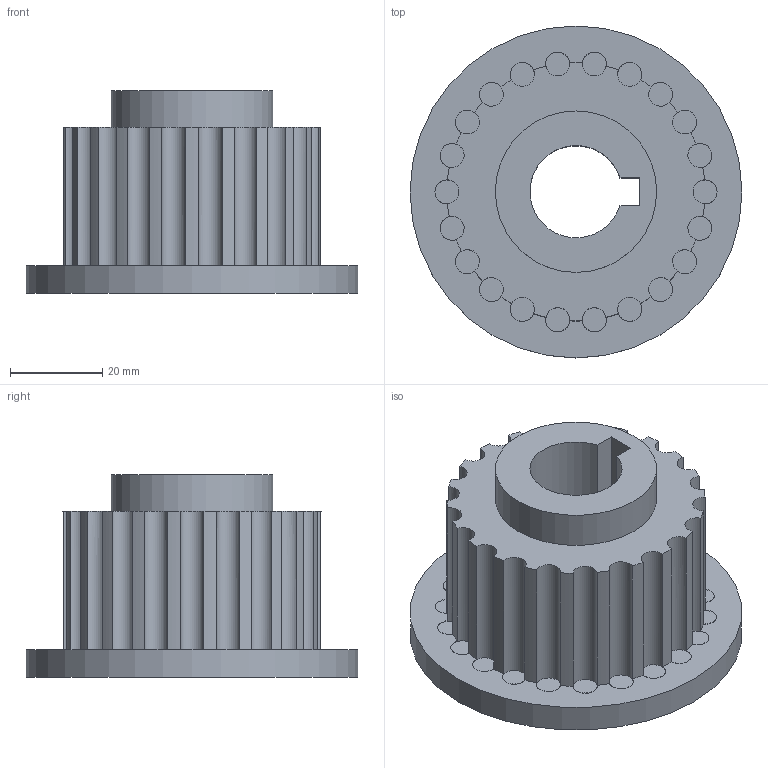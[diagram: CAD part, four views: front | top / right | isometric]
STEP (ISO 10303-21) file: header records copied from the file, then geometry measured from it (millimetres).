
FILE_DESCRIPTION(('Open CASCADE Model'),'2;1');
FILE_NAME('Open CASCADE Shape Model','2026-07-12T13:14:43',('Author'),( 'Open CASCADE'),'Open CASCADE STEP processor 7.9','build123d', 'Unknown');
FILE_SCHEMA(('AUTOMOTIVE_DESIGN { 1 0 10303 214 1 1 1 1 }'));
Length unit declared in the file: millimetre
Products named in the file (1): COMPOUND
Bounding box: 72 x 72 x 44 mm (x, y, z)
Volume: 84219.8 mm3; surface area: 19955.4 mm2
Topology: 1 solids, 1 shells, 76 faces, 216 edges, 144 vertices
Faces by surface type: cylinder 47, plane 29
Full cylindrical faces by diameter (mm): 5.2 x22, 35 x1, 72 x1
Entity records: 5276 total; most frequent: CARTESIAN_POINT 973, DIRECTION 836, ORIENTED_EDGE 432, PCURVE 432, DEFINITIONAL_REPRESENTATION 432, CIRCLE 276, LINE 268, VECTOR 268
